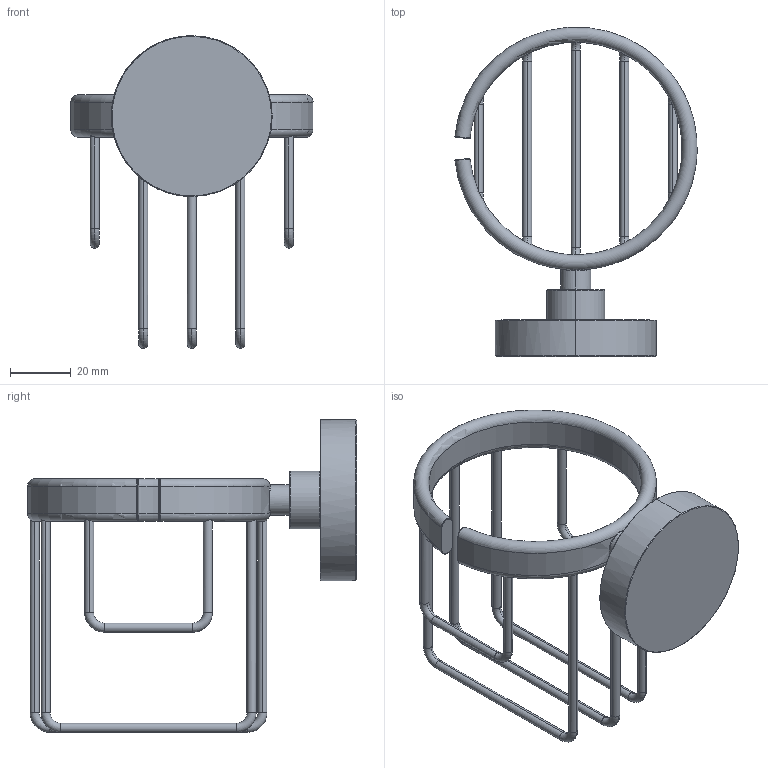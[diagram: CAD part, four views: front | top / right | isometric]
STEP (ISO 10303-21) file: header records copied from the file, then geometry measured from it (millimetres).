
FILE_DESCRIPTION(('THIS FILE CONTAINS SOME STEP INSTANCES'),'1');
FILE_NAME('HAR 050-light.stp','2015-11-18T 9:27:14',('UNDEFINED'),('UNDEFINED'),'T-FLEX CAD STEP converter','T-FLEX CAD','');
FILE_SCHEMA(('CONFIG_CONTROL_DESIGN'));
Length unit declared in the file: metre
Products named in the file (1): har_050
Bounding box: 79.74 x 108.39 x 103 mm (x, y, z)
Volume: 50368.4 mm3; surface area: 22505.2 mm2
Topology: 1 solids, 1 shells, 92 faces, 204 edges, 119 vertices
Faces by surface type: cylinder 39, torus 25, cone 10, plane 9, bspline 9
Entity records: 5306 total; most frequent: CARTESIAN_POINT 3658, ORIENTED_EDGE 408, DIRECTION 246, EDGE_CURVE 204, VERTEX_POINT 119, EDGE_LOOP 101, AXIS2_PLACEMENT_3D 96, ADVANCED_FACE 89
